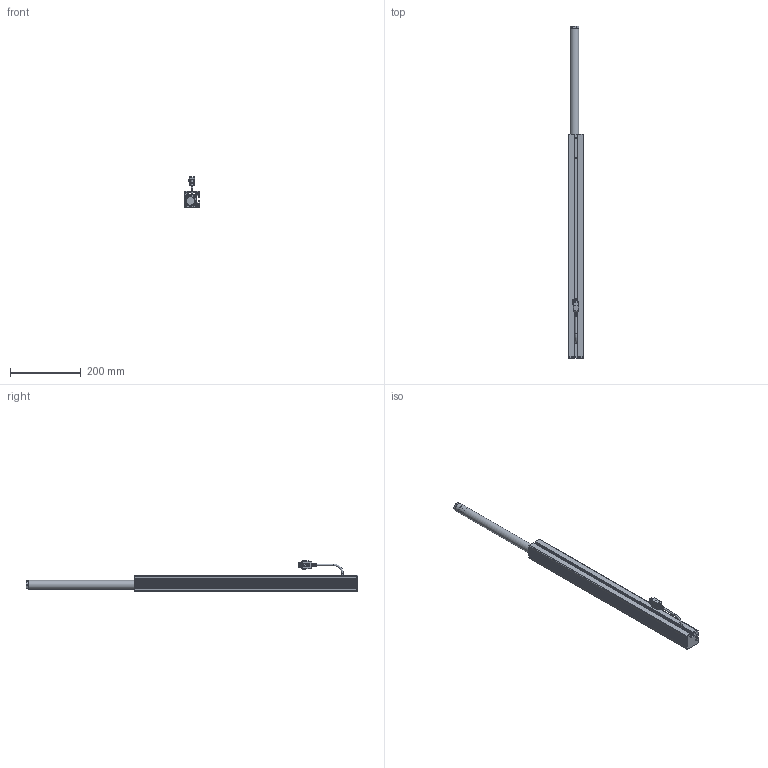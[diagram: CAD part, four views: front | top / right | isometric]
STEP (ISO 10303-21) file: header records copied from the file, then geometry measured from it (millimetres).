
FILE_DESCRIPTION(/* description */ ('Unknown'),/* implementation_level */ '2;1');
FILE_NAME(/* name */ '907.02003_00-Ausgefahren',/* time_stamp */ '2022-02-03T15:49:22+01:00',/* author */ ('Unknown'),/* organization */ ('Unknown'),/* preprocessor_version */ 'ST-DEVELOPER v18.1',/* originating_system */ 'Solid Edge',/* authorisation */ 'Unknown');
FILE_SCHEMA (('AUTOMOTIVE_DESIGN {1 0 10303 214 3 1 1}'));
Length unit declared in the file: millimetre
Products named in the file (9): 907.02003; 142.00014; 119.00500; 122.00005; 142.00020; 123.00110; 125.00051; 128.00040; Kabel Molex
Assembly tree (14 placements, depth 2):
  907.02003
    142.00014  x4
    119.00500
    122.00005
    142.00020  x4
    123.00110
    125.00051
    128.00040
    Kabel Molex
Bounding box: 45 x 940 x 86.17 mm (x, y, z)
Volume: 527503.1 mm3; surface area: 430683.7 mm2
Topology: 14 solids, 14 shells, 2748 faces, 7757 edges, 5052 vertices
Faces by surface type: plane 1473, cylinder 938, bspline 175, torus 71, cone 51, sphere 40
Full cylindrical faces by diameter (mm): 2.5 x13, 3 x4, 4 x12, 5 x3, 6.647 x1, 8.376 x2, 17.3 x1, 19 x1, 20.8 x3, 21 x2, 25 x2, 30 x2
Entity records: 94110 total; most frequent: CARTESIAN_POINT 21901, ORIENTED_EDGE 14942, DIRECTION 13725, EDGE_CURVE 7471, VERTEX_POINT 4911, LINE 4645, VECTOR 4645, AXIS2_PLACEMENT_3D 4540
